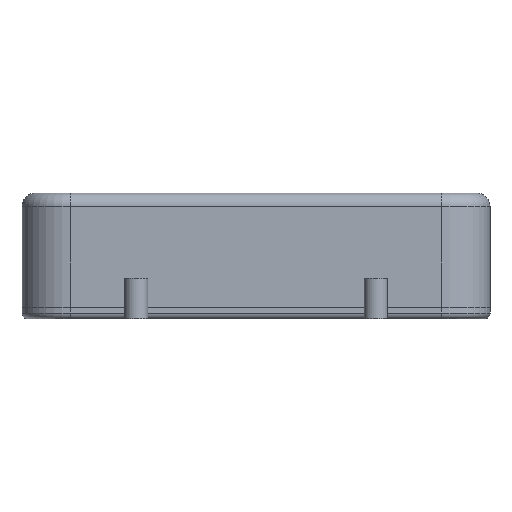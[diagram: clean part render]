
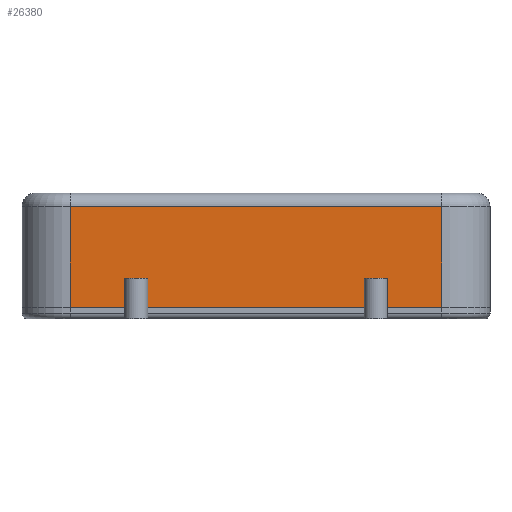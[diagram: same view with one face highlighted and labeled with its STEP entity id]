
A CAD part, front view. The second image highlights one B-rep face of the part: STEP entity #26380.
In plain terms, the highlighted planar face has unit normal (0, -1, 0).
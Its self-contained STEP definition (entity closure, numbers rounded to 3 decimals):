
#972=PLANE('',#27573);
#2379=FACE_OUTER_BOUND('',#3926,.T.);
#3926=EDGE_LOOP('',(#21749,#21750,#21751,#21752,#21753,#21754,#21755,#21756,
#21757,#21758,#21759,#21760));
#5958=LINE('',#44929,#8791);
#5962=LINE('',#44937,#8795);
#5966=LINE('',#44945,#8799);
#5984=LINE('',#44996,#8817);
#5985=LINE('',#44999,#8818);
#5987=LINE('',#45002,#8820);
#5988=LINE('',#45005,#8821);
#5989=LINE('',#45007,#8822);
#5990=LINE('',#45008,#8823);
#5991=LINE('',#45010,#8824);
#5992=LINE('',#45012,#8825);
#5993=LINE('',#45013,#8826);
#8791=VECTOR('',#30518,10.);
#8795=VECTOR('',#30522,10.);
#8799=VECTOR('',#30526,10.);
#8817=VECTOR('',#30566,10.);
#8818=VECTOR('',#30569,10.);
#8820=VECTOR('',#30573,10.);
#8821=VECTOR('',#30576,10.);
#8822=VECTOR('',#30577,10.);
#8823=VECTOR('',#30578,10.);
#8824=VECTOR('',#30579,10.);
#8825=VECTOR('',#30580,10.);
#8826=VECTOR('',#30581,10.);
#12562=VERTEX_POINT('',#44926);
#12563=VERTEX_POINT('',#44928);
#12566=VERTEX_POINT('',#44934);
#12567=VERTEX_POINT('',#44936);
#12570=VERTEX_POINT('',#44942);
#12571=VERTEX_POINT('',#44944);
#12593=VERTEX_POINT('',#44994);
#12594=VERTEX_POINT('',#44998);
#12595=VERTEX_POINT('',#45004);
#12596=VERTEX_POINT('',#45006);
#12597=VERTEX_POINT('',#45009);
#12598=VERTEX_POINT('',#45011);
#15790=EDGE_CURVE('',#12563,#12562,#5958,.T.);
#15794=EDGE_CURVE('',#12567,#12566,#5962,.T.);
#15798=EDGE_CURVE('',#12571,#12570,#5966,.T.);
#15825=EDGE_CURVE('',#12566,#12593,#5984,.T.);
#15826=EDGE_CURVE('',#12594,#12563,#5985,.T.);
#15828=EDGE_CURVE('',#12593,#12594,#5987,.T.);
#15829=EDGE_CURVE('',#12595,#12562,#5988,.T.);
#15830=EDGE_CURVE('',#12596,#12595,#5989,.T.);
#15831=EDGE_CURVE('',#12571,#12596,#5990,.T.);
#15832=EDGE_CURVE('',#12570,#12597,#5991,.T.);
#15833=EDGE_CURVE('',#12597,#12598,#5992,.T.);
#15834=EDGE_CURVE('',#12598,#12567,#5993,.T.);
#21749=ORIENTED_EDGE('',*,*,#15825,.T.);
#21750=ORIENTED_EDGE('',*,*,#15828,.T.);
#21751=ORIENTED_EDGE('',*,*,#15826,.T.);
#21752=ORIENTED_EDGE('',*,*,#15790,.T.);
#21753=ORIENTED_EDGE('',*,*,#15829,.F.);
#21754=ORIENTED_EDGE('',*,*,#15830,.F.);
#21755=ORIENTED_EDGE('',*,*,#15831,.F.);
#21756=ORIENTED_EDGE('',*,*,#15798,.T.);
#21757=ORIENTED_EDGE('',*,*,#15832,.T.);
#21758=ORIENTED_EDGE('',*,*,#15833,.T.);
#21759=ORIENTED_EDGE('',*,*,#15834,.T.);
#21760=ORIENTED_EDGE('',*,*,#15794,.T.);
#26380=ADVANCED_FACE('',(#2379),#972,.T.);
#27573=AXIS2_PLACEMENT_3D('',#45003,#30574,#30575);
#30518=DIRECTION('',(1.,0.,0.));
#30522=DIRECTION('',(1.,0.,0.));
#30526=DIRECTION('',(1.,0.,0.));
#30566=DIRECTION('',(0.,0.,1.));
#30569=DIRECTION('',(0.,0.,-1.));
#30573=DIRECTION('',(1.,0.,0.));
#30574=DIRECTION('center_axis',(0.,-1.,0.));
#30575=DIRECTION('ref_axis',(1.,0.,0.));
#30576=DIRECTION('',(0.,0.,-1.));
#30577=DIRECTION('',(1.,0.,0.));
#30578=DIRECTION('',(0.,0.,1.));
#30579=DIRECTION('',(0.,0.,1.));
#30580=DIRECTION('',(1.,0.,0.));
#30581=DIRECTION('',(0.,0.,-1.));
#44926=CARTESIAN_POINT('',(19.2,-27.5,-6.5));
#44928=CARTESIAN_POINT('',(13.6,-27.5,-6.5));
#44929=CARTESIAN_POINT('',(-24.2,-27.5,-6.5));
#44934=CARTESIAN_POINT('',(11.2,-27.5,-6.5));
#44936=CARTESIAN_POINT('',(-11.2,-27.5,-6.5));
#44937=CARTESIAN_POINT('',(-24.2,-27.5,-6.5));
#44942=CARTESIAN_POINT('',(-13.6,-27.5,-6.5));
#44944=CARTESIAN_POINT('',(-19.2,-27.5,-6.5));
#44945=CARTESIAN_POINT('',(-24.2,-27.5,-6.5));
#44994=CARTESIAN_POINT('',(11.2,-27.5,-3.5));
#44996=CARTESIAN_POINT('',(11.2,-27.5,-6.5));
#44998=CARTESIAN_POINT('',(13.6,-27.5,-3.5));
#44999=CARTESIAN_POINT('',(13.6,-27.5,-6.5));
#45002=CARTESIAN_POINT('',(-5.9,-27.5,-3.5));
#45003=CARTESIAN_POINT('Origin',(-24.2,-27.5,-6.5));
#45004=CARTESIAN_POINT('',(19.2,-27.5,3.9));
#45005=CARTESIAN_POINT('',(19.2,-27.5,-6.5));
#45006=CARTESIAN_POINT('',(-19.2,-27.5,3.9));
#45007=CARTESIAN_POINT('',(-12.1,-27.5,3.9));
#45008=CARTESIAN_POINT('',(-19.2,-27.5,-6.5));
#45009=CARTESIAN_POINT('',(-13.6,-27.5,-3.5));
#45010=CARTESIAN_POINT('',(-13.6,-27.5,-6.5));
#45011=CARTESIAN_POINT('',(-11.2,-27.5,-3.5));
#45012=CARTESIAN_POINT('',(-18.3,-27.5,-3.5));
#45013=CARTESIAN_POINT('',(-11.2,-27.5,-6.5));
